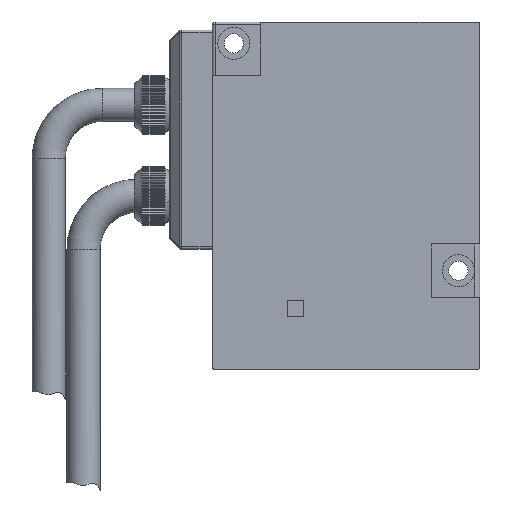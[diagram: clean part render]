
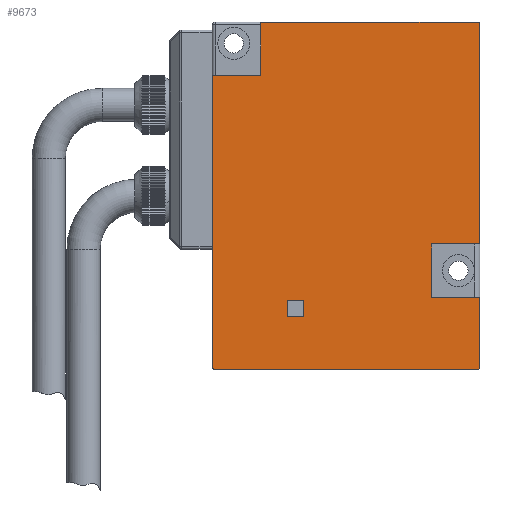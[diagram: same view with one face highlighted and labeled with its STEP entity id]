
A CAD part, front view. The second image highlights one B-rep face of the part: STEP entity #9673.
In plain terms, the highlighted planar face has unit normal (0, -1, 0).
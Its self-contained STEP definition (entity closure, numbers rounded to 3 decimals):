
#8 = DIRECTION ( 'NONE',  ( -1., 0., 0. ) ) ;
#12 = CARTESIAN_POINT ( 'NONE',  ( 50., 0., -41.5 ) ) ;
#19 = DIRECTION ( 'NONE',  ( -1., 0., 0. ) ) ;
#22 = CARTESIAN_POINT ( 'NONE',  ( 0., 0., -65. ) ) ;
#31 = DIRECTION ( 'NONE',  ( 1., 0., 0. ) ) ;
#32 = CARTESIAN_POINT ( 'NONE',  ( 14., 0., -55. ) ) ;
#708 = LINE ( 'NONE', #11856, #709 ) ;
#709 = VECTOR ( 'NONE', #11853, 1000. ) ;
#813 = LINE ( 'NONE', #11776, #814 ) ;
#814 = VECTOR ( 'NONE', #11775, 1000. ) ;
#883 = LINE ( 'NONE', #9977, #884 ) ;
#884 = VECTOR ( 'NONE', #9975, 1000. ) ;
#885 = LINE ( 'NONE', #9974, #886 ) ;
#886 = VECTOR ( 'NONE', #9973, 1000. ) ;
#887 = LINE ( 'NONE', #9972, #888 ) ;
#888 = VECTOR ( 'NONE', #9971, 1000. ) ;
#889 = CIRCLE ( 'NONE', #2232, 0.5 ) ;
#891 = LINE ( 'NONE', #9960, #893 ) ;
#892 = CIRCLE ( 'NONE', #2230, 0.5 ) ;
#893 = VECTOR ( 'NONE', #9958, 1000. ) ;
#894 = LINE ( 'NONE', #9957, #895 ) ;
#895 = VECTOR ( 'NONE', #9956, 1000. ) ;
#896 = LINE ( 'NONE', #10103, #898 ) ;
#897 = CIRCLE ( 'NONE', #2229, 0.5 ) ;
#898 = VECTOR ( 'NONE', #10098, 1000. ) ;
#899 = LINE ( 'NONE', #10094, #900 ) ;
#900 = VECTOR ( 'NONE', #10089, 1000. ) ;
#934 = LINE ( 'NONE', #10058, #935 ) ;
#935 = VECTOR ( 'NONE', #10057, 1000. ) ;
#940 = LINE ( 'NONE', #32, #942 ) ;
#942 = VECTOR ( 'NONE', #31, 1000. ) ;
#1273 = PLANE ( 'NONE',  #6166 ) ;
#1274 = CARTESIAN_POINT ( 'NONE',  ( 0., 0., -65. ) ) ;
#1275 = DIRECTION ( 'NONE',  ( 0., -1., 0. ) ) ;
#1276 = DIRECTION ( 'NONE',  ( 0., 0., -1. ) ) ;
#2229 = AXIS2_PLACEMENT_3D ( 'NONE', #9955, #9954, #9952 ) ;
#2230 = AXIS2_PLACEMENT_3D ( 'NONE', #9964, #9963, #9961 ) ;
#2232 = AXIS2_PLACEMENT_3D ( 'NONE', #9970, #9969, #9968 ) ;
#2324 = EDGE_CURVE ( 'NONE', #7310, #7475, #708, .T. ) ;
#2382 = EDGE_CURVE ( 'NONE', #7475, #7477, #813, .T. ) ;
#2427 = EDGE_CURVE ( '������45', #7260, #7367, #883, .T. ) ;
#2428 = EDGE_CURVE ( '������13', #7480, #7260, #885, .T. ) ;
#2429 = EDGE_CURVE ( 'NONE', #7432, #4998, #887, .T. ) ;
#2430 = EDGE_CURVE ( 'NONE', #7432, #7255, #889, .T. ) ;
#2432 = EDGE_CURVE ( 'NONE', #7378, #7394, #892, .T. ) ;
#2433 = EDGE_CURVE ( '������48', #4998, #7433, #891, .T. ) ;
#2434 = EDGE_CURVE ( '������17', #7376, #7349, #894, .T. ) ;
#2435 = EDGE_CURVE ( 'NONE', #7349, #7317, #897, .T. ) ;
#2436 = EDGE_CURVE ( 'NONE', #7391, #7317, #896, .T. ) ;
#2437 = EDGE_CURVE ( '������1', #7433, #7391, #899, .T. ) ;
#2458 = EDGE_CURVE ( '������100', #7394, #7367, #934, .T. ) ;
#2462 = EDGE_CURVE ( 'NONE', #7477, #7293, #940, .T. ) ;
#2463 = EDGE_CURVE ( '������85', #7378, #7255, #11905, .T. ) ;
#2464 = EDGE_CURVE ( '������39', #7376, #7480, #11907, .T. ) ;
#2591 = EDGE_CURVE ( 'NONE', #7293, #7310, #12069, .T. ) ;
#3408 = EDGE_LOOP ( 'NONE', ( #10463, #10462, #10461, #10460 ) ) ;
#3409 = EDGE_LOOP ( 'NONE', ( #12675, #12674, #12673, #12672, #12670, #12669, #12668, #12667, #12666, #12665, #12664, #10465, #10464 ) ) ;
#4998 = VERTEX_POINT ( 'NONE', #5868 ) ;
#5440 = CARTESIAN_POINT ( 'NONE',  ( 0.5, 0., -65. ) ) ;
#5443 = CARTESIAN_POINT ( 'NONE',  ( 41., 0., -51.5 ) ) ;
#5460 = CARTESIAN_POINT ( 'NONE',  ( 17., 0., -55. ) ) ;
#5469 = CARTESIAN_POINT ( 'NONE',  ( 17., 0., -52. ) ) ;
#5473 = CARTESIAN_POINT ( 'NONE',  ( 49.5, 0., 0. ) ) ;
#5491 = CARTESIAN_POINT ( 'NONE',  ( 49.866, 0., -0.159 ) ) ;
#5501 = CARTESIAN_POINT ( 'NONE',  ( 49.866, 0., -51.5 ) ) ;
#5506 = CARTESIAN_POINT ( 'NONE',  ( 49.866, 0., -41.5 ) ) ;
#5507 = CARTESIAN_POINT ( 'NONE',  ( 49.5, 0., -65. ) ) ;
#5514 = CARTESIAN_POINT ( 'NONE',  ( 9., 0., 0. ) ) ;
#5516 = CARTESIAN_POINT ( 'NONE',  ( 49.866, 0., -64.841 ) ) ;
#5535 = CARTESIAN_POINT ( 'NONE',  ( 0., 0., -64.5 ) ) ;
#5536 = CARTESIAN_POINT ( 'NONE',  ( 9., 0., -10. ) ) ;
#5554 = CARTESIAN_POINT ( 'NONE',  ( 14., 0., -52. ) ) ;
#5555 = CARTESIAN_POINT ( 'NONE',  ( 14., 0., -55. ) ) ;
#5556 = CARTESIAN_POINT ( 'NONE',  ( 41., 0., -41.5 ) ) ;
#5768 = CARTESIAN_POINT ( 'NONE',  ( 17., 0., -52. ) ) ;
#5769 = DIRECTION ( 'NONE',  ( 0., 0., 1. ) ) ;
#5868 = CARTESIAN_POINT ( 'NONE',  ( 0., 0., -10. ) ) ;
#6166 = AXIS2_PLACEMENT_3D ( 'NONE', #1274, #1275, #1276 ) ;
#7255 = VERTEX_POINT ( 'NONE', #5440 ) ;
#7260 = VERTEX_POINT ( 'NONE', #5443 ) ;
#7293 = VERTEX_POINT ( 'NONE', #5460 ) ;
#7310 = VERTEX_POINT ( 'NONE', #5469 ) ;
#7317 = VERTEX_POINT ( 'NONE', #5473 ) ;
#7349 = VERTEX_POINT ( 'NONE', #5491 ) ;
#7367 = VERTEX_POINT ( 'NONE', #5501 ) ;
#7376 = VERTEX_POINT ( 'NONE', #5506 ) ;
#7378 = VERTEX_POINT ( 'NONE', #5507 ) ;
#7391 = VERTEX_POINT ( 'NONE', #5514 ) ;
#7394 = VERTEX_POINT ( 'NONE', #5516 ) ;
#7432 = VERTEX_POINT ( 'NONE', #5535 ) ;
#7433 = VERTEX_POINT ( 'NONE', #5536 ) ;
#7475 = VERTEX_POINT ( 'NONE', #5554 ) ;
#7477 = VERTEX_POINT ( 'NONE', #5555 ) ;
#7480 = VERTEX_POINT ( 'NONE', #5556 ) ;
#9673 = ADVANCED_FACE ( '�����12', ( #10727, #10728 ), #1273, .T. ) ;
#9952 = DIRECTION ( 'NONE',  ( 0., 0., -1. ) ) ;
#9954 = DIRECTION ( 'NONE',  ( 0., -1., 0. ) ) ;
#9955 = CARTESIAN_POINT ( 'NONE',  ( 49.5, 0., -0.5 ) ) ;
#9956 = DIRECTION ( 'NONE',  ( 0., 0., 1. ) ) ;
#9957 = CARTESIAN_POINT ( 'NONE',  ( 49.866, 0., -41.5 ) ) ;
#9958 = DIRECTION ( 'NONE',  ( 1., 0., 0. ) ) ;
#9960 = CARTESIAN_POINT ( 'NONE',  ( 0., 0., -10. ) ) ;
#9961 = DIRECTION ( 'NONE',  ( 0., 0., -1. ) ) ;
#9963 = DIRECTION ( 'NONE',  ( 0., -1., 0. ) ) ;
#9964 = CARTESIAN_POINT ( 'NONE',  ( 49.5, 0., -64.5 ) ) ;
#9968 = DIRECTION ( 'NONE',  ( 0., 0., -1. ) ) ;
#9969 = DIRECTION ( 'NONE',  ( 0., -1., 0. ) ) ;
#9970 = CARTESIAN_POINT ( 'NONE',  ( 0.5, 0., -64.5 ) ) ;
#9971 = DIRECTION ( 'NONE',  ( 0., 0., 1. ) ) ;
#9972 = CARTESIAN_POINT ( 'NONE',  ( 0., 0., 0. ) ) ;
#9973 = DIRECTION ( 'NONE',  ( 0., 0., -1. ) ) ;
#9974 = CARTESIAN_POINT ( 'NONE',  ( 41., 0., -41.5 ) ) ;
#9975 = DIRECTION ( 'NONE',  ( 1., 0., 0. ) ) ;
#9977 = CARTESIAN_POINT ( 'NONE',  ( 50., 0., -51.5 ) ) ;
#10057 = DIRECTION ( 'NONE',  ( 0., 0., 1. ) ) ;
#10058 = CARTESIAN_POINT ( 'NONE',  ( 49.866, 0., -64.841 ) ) ;
#10089 = DIRECTION ( 'NONE',  ( 0., 0., 1. ) ) ;
#10094 = CARTESIAN_POINT ( 'NONE',  ( 9., 0., 0. ) ) ;
#10098 = DIRECTION ( 'NONE',  ( 1., 0., 0. ) ) ;
#10103 = CARTESIAN_POINT ( 'NONE',  ( 0., 0., 0. ) ) ;
#10460 = ORIENTED_EDGE ( 'NONE', *, *, #2591, .F. ) ;
#10461 = ORIENTED_EDGE ( 'NONE', *, *, #2324, .F. ) ;
#10462 = ORIENTED_EDGE ( 'NONE', *, *, #2382, .F. ) ;
#10463 = ORIENTED_EDGE ( 'NONE', *, *, #2462, .F. ) ;
#10464 = ORIENTED_EDGE ( 'NONE', *, *, #2428, .F. ) ;
#10465 = ORIENTED_EDGE ( 'NONE', *, *, #2427, .F. ) ;
#10727 = FACE_OUTER_BOUND ( 'NONE', #3409, .T. ) ;
#10728 = FACE_BOUND ( 'NONE', #3408, .T. ) ;
#11775 = DIRECTION ( 'NONE',  ( 0., 0., -1. ) ) ;
#11776 = CARTESIAN_POINT ( 'NONE',  ( 14., 0., -52. ) ) ;
#11853 = DIRECTION ( 'NONE',  ( -1., 0., 0. ) ) ;
#11856 = CARTESIAN_POINT ( 'NONE',  ( 14., 0., -52. ) ) ;
#11905 = LINE ( 'NONE', #22, #11906 ) ;
#11906 = VECTOR ( 'NONE', #19, 1000. ) ;
#11907 = LINE ( 'NONE', #12, #11908 ) ;
#11908 = VECTOR ( 'NONE', #8, 1000. ) ;
#12069 = LINE ( 'NONE', #5768, #12070 ) ;
#12070 = VECTOR ( 'NONE', #5769, 1000. ) ;
#12664 = ORIENTED_EDGE ( 'NONE', *, *, #2458, .T. ) ;
#12665 = ORIENTED_EDGE ( 'NONE', *, *, #2432, .T. ) ;
#12666 = ORIENTED_EDGE ( 'NONE', *, *, #2463, .F. ) ;
#12667 = ORIENTED_EDGE ( 'NONE', *, *, #2430, .T. ) ;
#12668 = ORIENTED_EDGE ( 'NONE', *, *, #2429, .F. ) ;
#12669 = ORIENTED_EDGE ( 'NONE', *, *, #2433, .F. ) ;
#12670 = ORIENTED_EDGE ( 'NONE', *, *, #2437, .F. ) ;
#12672 = ORIENTED_EDGE ( 'NONE', *, *, #2436, .F. ) ;
#12673 = ORIENTED_EDGE ( 'NONE', *, *, #2435, .T. ) ;
#12674 = ORIENTED_EDGE ( 'NONE', *, *, #2434, .T. ) ;
#12675 = ORIENTED_EDGE ( 'NONE', *, *, #2464, .F. ) ;
